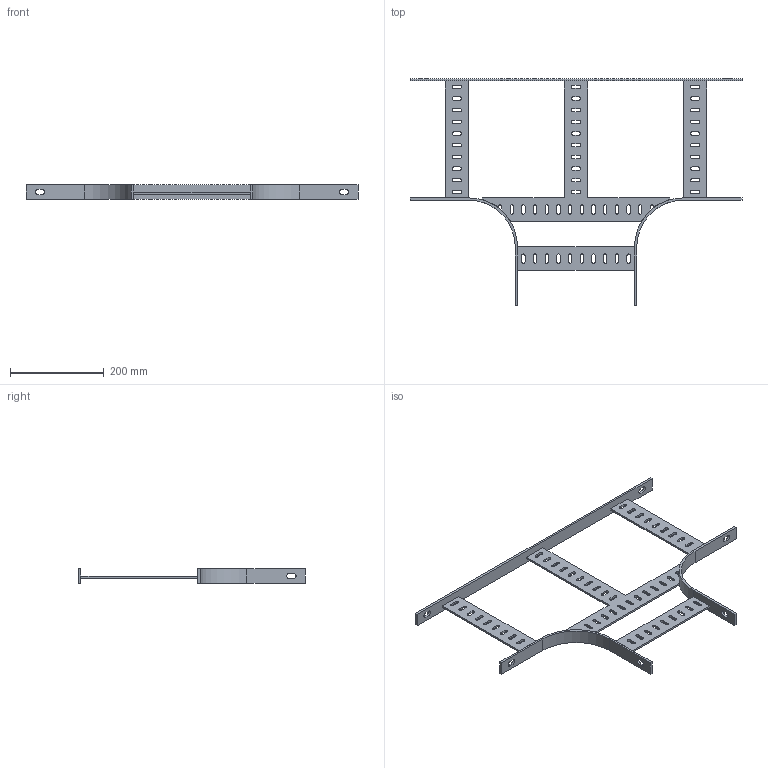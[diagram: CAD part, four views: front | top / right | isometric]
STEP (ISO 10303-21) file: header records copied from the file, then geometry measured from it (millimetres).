
FILE_DESCRIPTION(('Creo Elements/Direct Modeling STEP Export'),'2;1');
FILE_NAME('//pserver/office/EK/ME10-3D/3D-output/SLA 250F.stp','2020-03-10T15:08:56',(''),(''),'PTC Creo Elements/Direct Modeling STEP processor for AP214 (Solid Model)','PTC Creo Elements/Direct Modeling 19.0C 15-Aug-2015 (C) Parametric Technology GmbH','');
FILE_SCHEMA(('AUTOMOTIVE_DESIGN { 1 0 10303 214 1 1 1 1 }'));
Length unit declared in the file: millimetre
Products named in the file (2): SLA_250F
Assembly tree (1 placements, depth 2):
  SLA_250F
    SLA_250F
Bounding box: 710 x 485 x 30 mm (x, y, z)
Volume: 462595.7 mm3; surface area: 246515.9 mm2
Topology: 1 solids, 1 shells, 289 faces, 850 edges, 564 vertices
Faces by surface type: plane 167, cylinder 122
Entity records: 9896 total; most frequent: ORIENTED_EDGE 1700, CARTESIAN_POINT 1698, DIRECTION 1668, EDGE_CURVE 850, VECTOR 600, LINE 600, VERTEX_POINT 564, AXIS2_PLACEMENT_3D 534
